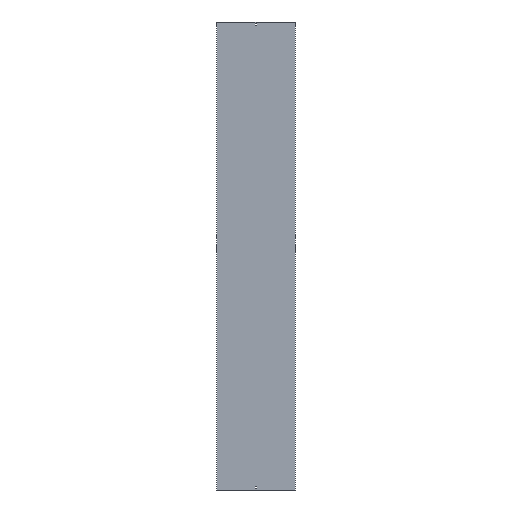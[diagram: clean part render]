
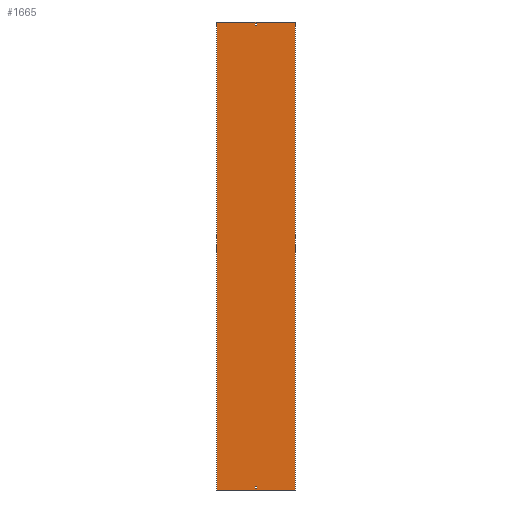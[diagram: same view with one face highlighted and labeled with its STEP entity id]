
A CAD part, front view. The second image highlights one B-rep face of the part: STEP entity #1665.
In plain terms, the highlighted planar face has unit normal (0, -1, 0).
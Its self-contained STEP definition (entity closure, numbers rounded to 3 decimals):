
#5 = DIRECTION ( 'NONE',  ( 0., 0., 1. ) ) ;
#13 = LINE ( 'NONE', #1597, #1480 ) ;
#19 = FACE_BOUND ( 'NONE', #149, .T. ) ;
#23 = VECTOR ( 'NONE', #5, 1000. ) ;
#54 = CARTESIAN_POINT ( 'NONE',  ( 252., 0., 1500. ) ) ;
#75 = ORIENTED_EDGE ( 'NONE', *, *, #463, .T. ) ;
#83 = VECTOR ( 'NONE', #788, 1000. ) ;
#100 = EDGE_CURVE ( 'NONE', #1245, #1417, #13, .T. ) ;
#137 = VECTOR ( 'NONE', #414, 1000. ) ;
#149 = EDGE_LOOP ( 'NONE', ( #257, #827, #75, #1071 ) ) ;
#153 = FACE_BOUND ( 'NONE', #1604, .T. ) ;
#183 = LINE ( 'NONE', #676, #137 ) ;
#197 = DIRECTION ( 'NONE',  ( 0., 0., 1. ) ) ;
#205 = CARTESIAN_POINT ( 'NONE',  ( -3.25, 0., -1488. ) ) ;
#214 = CARTESIAN_POINT ( 'NONE',  ( 3.25, 0., 1479. ) ) ;
#232 = VERTEX_POINT ( 'NONE', #980 ) ;
#236 = EDGE_CURVE ( 'NONE', #1553, #685, #1494, .T. ) ;
#244 = LINE ( 'NONE', #1393, #1653 ) ;
#257 = ORIENTED_EDGE ( 'NONE', *, *, #710, .T. ) ;
#265 = VERTEX_POINT ( 'NONE', #54 ) ;
#273 = CARTESIAN_POINT ( 'NONE',  ( 3.25, 0., -1488. ) ) ;
#326 = CARTESIAN_POINT ( 'NONE',  ( -252., 0., -1500. ) ) ;
#337 = EDGE_CURVE ( 'NONE', #232, #380, #596, .T. ) ;
#344 = VERTEX_POINT ( 'NONE', #1340 ) ;
#361 = CARTESIAN_POINT ( 'NONE',  ( 3.25, 0., -1488. ) ) ;
#378 = EDGE_CURVE ( 'NONE', #685, #1446, #503, .T. ) ;
#380 = VERTEX_POINT ( 'NONE', #1166 ) ;
#384 = LINE ( 'NONE', #361, #975 ) ;
#406 = VECTOR ( 'NONE', #197, 1000. ) ;
#414 = DIRECTION ( 'NONE',  ( -1., 0., 0. ) ) ;
#428 = VERTEX_POINT ( 'NONE', #1400 ) ;
#438 = ORIENTED_EDGE ( 'NONE', *, *, #236, .F. ) ;
#445 = DIRECTION ( 'NONE',  ( 0., 0., -1. ) ) ;
#448 = EDGE_CURVE ( 'NONE', #1446, #428, #244, .T. ) ;
#450 = CARTESIAN_POINT ( 'NONE',  ( 3.25, 0., 1488. ) ) ;
#463 = EDGE_CURVE ( 'NONE', #380, #866, #384, .T. ) ;
#469 = CARTESIAN_POINT ( 'NONE',  ( -3.25, 0., -1479. ) ) ;
#486 = DIRECTION ( 'NONE',  ( -1., 0., 0. ) ) ;
#488 = ORIENTED_EDGE ( 'NONE', *, *, #1096, .F. ) ;
#493 = CARTESIAN_POINT ( 'NONE',  ( -3.25, 0., 1488. ) ) ;
#503 = LINE ( 'NONE', #647, #23 ) ;
#509 = VECTOR ( 'NONE', #1089, 1000. ) ;
#526 = PLANE ( 'NONE',  #1037 ) ;
#534 = CARTESIAN_POINT ( 'NONE',  ( 252., 0., 1500. ) ) ;
#596 = LINE ( 'NONE', #469, #618 ) ;
#618 = VECTOR ( 'NONE', #1468, 1000. ) ;
#620 = LINE ( 'NONE', #493, #811 ) ;
#647 = CARTESIAN_POINT ( 'NONE',  ( 3.25, 0., 1488. ) ) ;
#671 = CARTESIAN_POINT ( 'NONE',  ( -252., 0., 1500. ) ) ;
#676 = CARTESIAN_POINT ( 'NONE',  ( -3.25, 0., -1488. ) ) ;
#685 = VERTEX_POINT ( 'NONE', #214 ) ;
#709 = LINE ( 'NONE', #1617, #733 ) ;
#710 = EDGE_CURVE ( 'NONE', #1379, #232, #836, .T. ) ;
#733 = VECTOR ( 'NONE', #1228, 1000. ) ;
#788 = DIRECTION ( 'NONE',  ( 1., 0., 0. ) ) ;
#811 = VECTOR ( 'NONE', #1249, 1000. ) ;
#816 = DIRECTION ( 'NONE',  ( 0., 0., -1. ) ) ;
#825 = ORIENTED_EDGE ( 'NONE', *, *, #881, .F. ) ;
#827 = ORIENTED_EDGE ( 'NONE', *, *, #337, .T. ) ;
#836 = LINE ( 'NONE', #205, #406 ) ;
#861 = LINE ( 'NONE', #1383, #83 ) ;
#866 = VERTEX_POINT ( 'NONE', #273 ) ;
#881 = EDGE_CURVE ( 'NONE', #428, #1553, #620, .T. ) ;
#884 = EDGE_CURVE ( 'NONE', #1417, #344, #861, .T. ) ;
#926 = FACE_OUTER_BOUND ( 'NONE', #1568, .T. ) ;
#947 = EDGE_CURVE ( 'NONE', #866, #1379, #183, .T. ) ;
#975 = VECTOR ( 'NONE', #1525, 1000. ) ;
#980 = CARTESIAN_POINT ( 'NONE',  ( -3.25, 0., -1479. ) ) ;
#1001 = ORIENTED_EDGE ( 'NONE', *, *, #100, .T. ) ;
#1030 = CARTESIAN_POINT ( 'NONE',  ( -3.25, 0., 1479. ) ) ;
#1037 = AXIS2_PLACEMENT_3D ( 'NONE', #671, #1220, #1055 ) ;
#1055 = DIRECTION ( 'NONE',  ( -1., 0., 0. ) ) ;
#1071 = ORIENTED_EDGE ( 'NONE', *, *, #947, .T. ) ;
#1089 = DIRECTION ( 'NONE',  ( 1., 0., 0. ) ) ;
#1096 = EDGE_CURVE ( 'NONE', #1245, #265, #709, .T. ) ;
#1164 = ORIENTED_EDGE ( 'NONE', *, *, #448, .F. ) ;
#1166 = CARTESIAN_POINT ( 'NONE',  ( 3.25, 0., -1479. ) ) ;
#1185 = CARTESIAN_POINT ( 'NONE',  ( -3.25, 0., -1488. ) ) ;
#1220 = DIRECTION ( 'NONE',  ( 0., 1., 0. ) ) ;
#1225 = CARTESIAN_POINT ( 'NONE',  ( -3.25, 0., 1479. ) ) ;
#1228 = DIRECTION ( 'NONE',  ( 1., 0., 0. ) ) ;
#1236 = ORIENTED_EDGE ( 'NONE', *, *, #378, .F. ) ;
#1245 = VERTEX_POINT ( 'NONE', #1527 ) ;
#1249 = DIRECTION ( 'NONE',  ( 0., 0., -1. ) ) ;
#1290 = ORIENTED_EDGE ( 'NONE', *, *, #1668, .F. ) ;
#1309 = LINE ( 'NONE', #534, #1464 ) ;
#1340 = CARTESIAN_POINT ( 'NONE',  ( 252., 0., -1500. ) ) ;
#1368 = ORIENTED_EDGE ( 'NONE', *, *, #884, .T. ) ;
#1379 = VERTEX_POINT ( 'NONE', #1185 ) ;
#1383 = CARTESIAN_POINT ( 'NONE',  ( -252., 0., -1500. ) ) ;
#1393 = CARTESIAN_POINT ( 'NONE',  ( -3.25, 0., 1488. ) ) ;
#1400 = CARTESIAN_POINT ( 'NONE',  ( -3.25, 0., 1488. ) ) ;
#1417 = VERTEX_POINT ( 'NONE', #326 ) ;
#1446 = VERTEX_POINT ( 'NONE', #450 ) ;
#1464 = VECTOR ( 'NONE', #445, 1000. ) ;
#1468 = DIRECTION ( 'NONE',  ( 1., 0., 0. ) ) ;
#1480 = VECTOR ( 'NONE', #816, 1000. ) ;
#1494 = LINE ( 'NONE', #1225, #509 ) ;
#1525 = DIRECTION ( 'NONE',  ( 0., 0., -1. ) ) ;
#1527 = CARTESIAN_POINT ( 'NONE',  ( -252., 0., 1500. ) ) ;
#1553 = VERTEX_POINT ( 'NONE', #1030 ) ;
#1568 = EDGE_LOOP ( 'NONE', ( #1368, #1290, #488, #1001 ) ) ;
#1597 = CARTESIAN_POINT ( 'NONE',  ( -252., 0., 1500. ) ) ;
#1604 = EDGE_LOOP ( 'NONE', ( #438, #825, #1164, #1236 ) ) ;
#1617 = CARTESIAN_POINT ( 'NONE',  ( -252., 0., 1500. ) ) ;
#1653 = VECTOR ( 'NONE', #486, 1000. ) ;
#1665 = ADVANCED_FACE ( 'NONE', ( #926, #153, #19 ), #526, .F. ) ;
#1668 = EDGE_CURVE ( 'NONE', #265, #344, #1309, .T. ) ;
